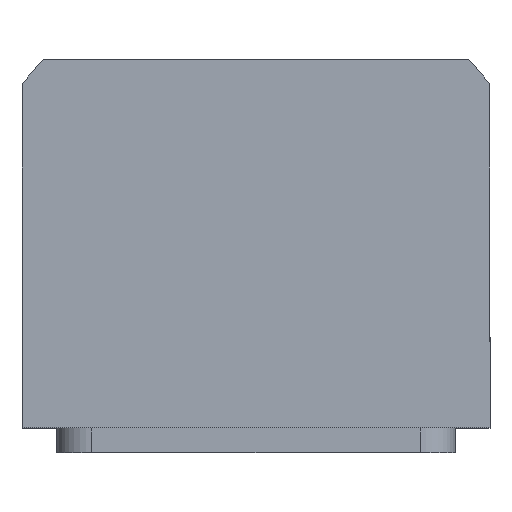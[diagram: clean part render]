
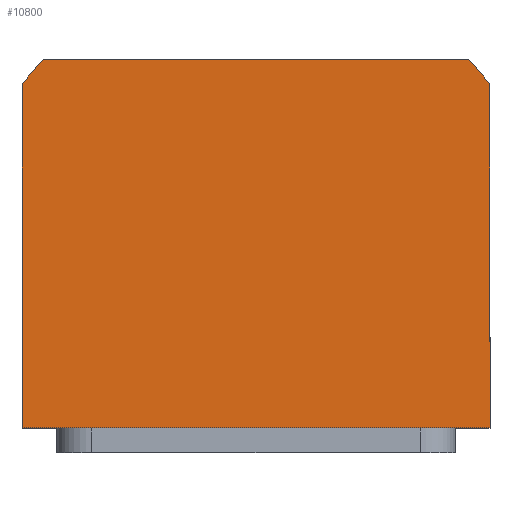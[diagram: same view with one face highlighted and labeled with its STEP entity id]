
A CAD part, top view. The second image highlights one B-rep face of the part: STEP entity #10800.
In plain terms, the highlighted planar face has unit normal (0, 0, 1).
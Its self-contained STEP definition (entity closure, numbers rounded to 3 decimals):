
#424 = ORIENTED_EDGE ( 'NONE', *, *, #2635, .T. ) ;
#463 = LINE ( 'NONE', #1776, #11844 ) ;
#1001 = CARTESIAN_POINT ( 'NONE',  ( 47., 34.832, 47.5 ) ) ;
#1214 = FACE_OUTER_BOUND ( 'NONE', #13814, .T. ) ;
#1249 = CARTESIAN_POINT ( 'NONE',  ( -47., -34., 47.5 ) ) ;
#1776 = CARTESIAN_POINT ( 'NONE',  ( 47., 34.832, 47.5 ) ) ;
#2174 = VERTEX_POINT ( 'NONE', #6501 ) ;
#2218 = DIRECTION ( 'NONE',  ( 1., 0., 0. ) ) ;
#2554 = DIRECTION ( 'NONE',  ( 0., 0., 1. ) ) ;
#2635 = EDGE_CURVE ( 'NONE', #11986, #10674, #14100, .T. ) ;
#2793 = ORIENTED_EDGE ( 'NONE', *, *, #11385, .T. ) ;
#3152 = VERTEX_POINT ( 'NONE', #4358 ) ;
#3300 = DIRECTION ( 'NONE',  ( 0., -1., 0. ) ) ;
#3372 = PLANE ( 'NONE',  #12050 ) ;
#3495 = EDGE_CURVE ( 'NONE', #11575, #10913, #10396, .T. ) ;
#4358 = CARTESIAN_POINT ( 'NONE',  ( -47., -34., 47.5 ) ) ;
#4405 = ORIENTED_EDGE ( 'NONE', *, *, #3495, .T. ) ;
#4634 = LINE ( 'NONE', #10473, #8240 ) ;
#5275 = CARTESIAN_POINT ( 'NONE',  ( -47., 34.832, 47.5 ) ) ;
#5633 = DIRECTION ( 'NONE',  ( 0., 0., 1. ) ) ;
#5924 = AXIS2_PLACEMENT_3D ( 'NONE', #10324, #5633, #2218 ) ;
#6448 = LINE ( 'NONE', #1249, #11699 ) ;
#6501 = CARTESIAN_POINT ( 'NONE',  ( 47., -34., 47.5 ) ) ;
#6714 = DIRECTION ( 'NONE',  ( 1., 0., 0. ) ) ;
#6825 = CARTESIAN_POINT ( 'NONE',  ( 0., 0., 47.5 ) ) ;
#7066 = DIRECTION ( 'NONE',  ( -1., 0., 0. ) ) ;
#8239 = VECTOR ( 'NONE', #6714, 1000. ) ;
#8240 = VECTOR ( 'NONE', #7066, 1000. ) ;
#8435 = AXIS2_PLACEMENT_3D ( 'NONE', #13039, #2554, #9361 ) ;
#9361 = DIRECTION ( 'NONE',  ( 1., 0., 0. ) ) ;
#10082 = EDGE_CURVE ( 'NONE', #10674, #3152, #6448, .T. ) ;
#10121 = CARTESIAN_POINT ( 'NONE',  ( 47., -34., 47.5 ) ) ;
#10282 = ORIENTED_EDGE ( 'NONE', *, *, #10861, .T. ) ;
#10324 = CARTESIAN_POINT ( 'NONE',  ( 0., 0., 47.5 ) ) ;
#10396 = CIRCLE ( 'NONE', #5924, 58.5 ) ;
#10473 = CARTESIAN_POINT ( 'NONE',  ( -42.688, 40., 47.5 ) ) ;
#10674 = VERTEX_POINT ( 'NONE', #5275 ) ;
#10800 = ADVANCED_FACE ( 'NONE', ( #1214 ), #3372, .T. ) ;
#10861 = EDGE_CURVE ( 'NONE', #3152, #2174, #12039, .T. ) ;
#10913 = VERTEX_POINT ( 'NONE', #11604 ) ;
#11049 = DIRECTION ( 'NONE',  ( 0., 1., 0. ) ) ;
#11385 = EDGE_CURVE ( 'NONE', #10913, #11986, #4634, .T. ) ;
#11451 = DIRECTION ( 'NONE',  ( 0., 0., 1. ) ) ;
#11575 = VERTEX_POINT ( 'NONE', #1001 ) ;
#11604 = CARTESIAN_POINT ( 'NONE',  ( 42.688, 40., 47.5 ) ) ;
#11699 = VECTOR ( 'NONE', #3300, 1000. ) ;
#11844 = VECTOR ( 'NONE', #11049, 1000. ) ;
#11974 = ORIENTED_EDGE ( 'NONE', *, *, #10082, .T. ) ;
#11986 = VERTEX_POINT ( 'NONE', #13557 ) ;
#12039 = LINE ( 'NONE', #10121, #8239 ) ;
#12050 = AXIS2_PLACEMENT_3D ( 'NONE', #6825, #11451, #12668 ) ;
#12668 = DIRECTION ( 'NONE',  ( 1., 0., 0. ) ) ;
#12924 = EDGE_CURVE ( 'NONE', #2174, #11575, #463, .T. ) ;
#13039 = CARTESIAN_POINT ( 'NONE',  ( 0., 0., 47.5 ) ) ;
#13557 = CARTESIAN_POINT ( 'NONE',  ( -42.688, 40., 47.5 ) ) ;
#13814 = EDGE_LOOP ( 'NONE', ( #10282, #14347, #4405, #2793, #424, #11974 ) ) ;
#14100 = CIRCLE ( 'NONE', #8435, 58.5 ) ;
#14347 = ORIENTED_EDGE ( 'NONE', *, *, #12924, .T. ) ;
